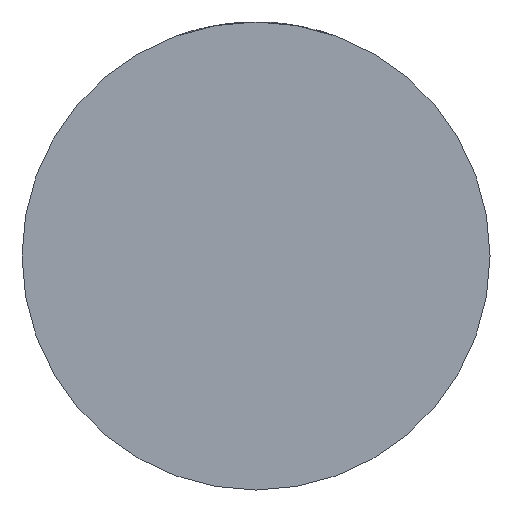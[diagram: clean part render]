
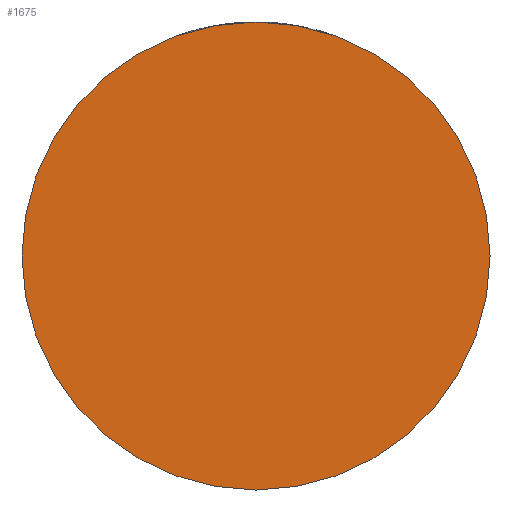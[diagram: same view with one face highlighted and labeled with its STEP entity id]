
A CAD part, front view. The second image highlights one B-rep face of the part: STEP entity #1675.
In plain terms, the highlighted planar face has unit normal (0, -1, 0).
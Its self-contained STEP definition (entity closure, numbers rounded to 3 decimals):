
#35 = DIRECTION ( 'NONE',  ( 0., -1., 0. ) ) ;
#253 = CARTESIAN_POINT ( 'NONE',  ( 44., -29., 0. ) ) ;
#521 = FACE_OUTER_BOUND ( 'NONE', #2444, .T. ) ;
#655 = DIRECTION ( 'NONE',  ( 1., 0., 0. ) ) ;
#817 = EDGE_CURVE ( 'NONE', #3191, #1727, #1889, .T. ) ;
#1205 = CARTESIAN_POINT ( 'NONE',  ( 0., -29., 0. ) ) ;
#1389 = AXIS2_PLACEMENT_3D ( 'NONE', #2461, #35, #655 ) ;
#1596 = CIRCLE ( 'NONE', #1389, 44. ) ;
#1675 = ADVANCED_FACE ( 'NONE', ( #521 ), #3616, .T. ) ;
#1727 = VERTEX_POINT ( 'NONE', #3002 ) ;
#1818 = AXIS2_PLACEMENT_3D ( 'NONE', #1205, #1838, #3599 ) ;
#1838 = DIRECTION ( 'NONE',  ( 0., -1., 0. ) ) ;
#1889 = CIRCLE ( 'NONE', #1818, 44. ) ;
#1918 = DIRECTION ( 'NONE',  ( 0., -1., 0. ) ) ;
#1937 = CARTESIAN_POINT ( 'NONE',  ( 0., -29., 0. ) ) ;
#2081 = ORIENTED_EDGE ( 'NONE', *, *, #3281, .T. ) ;
#2444 = EDGE_LOOP ( 'NONE', ( #2081, #3456 ) ) ;
#2461 = CARTESIAN_POINT ( 'NONE',  ( 0., -29., 0. ) ) ;
#3002 = CARTESIAN_POINT ( 'NONE',  ( -44., -29., 0. ) ) ;
#3191 = VERTEX_POINT ( 'NONE', #253 ) ;
#3281 = EDGE_CURVE ( 'NONE', #1727, #3191, #1596, .T. ) ;
#3456 = ORIENTED_EDGE ( 'NONE', *, *, #817, .T. ) ;
#3599 = DIRECTION ( 'NONE',  ( 1., 0., 0. ) ) ;
#3616 = PLANE ( 'NONE',  #3644 ) ;
#3644 = AXIS2_PLACEMENT_3D ( 'NONE', #1937, #1918, #4001 ) ;
#4001 = DIRECTION ( 'NONE',  ( 1., 0., 0. ) ) ;
